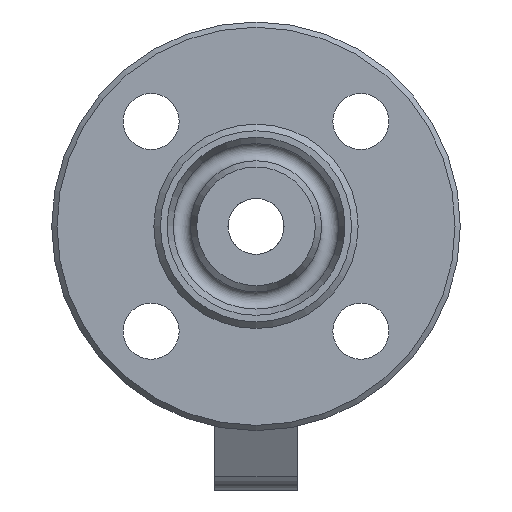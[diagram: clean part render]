
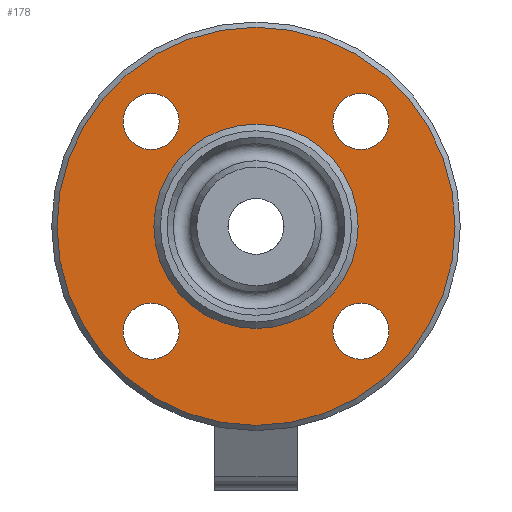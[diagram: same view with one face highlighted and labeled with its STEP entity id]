
A CAD part, left-side view. The second image highlights one B-rep face of the part: STEP entity #178.
In plain terms, the highlighted planar face has unit normal (-1, 0, 0).
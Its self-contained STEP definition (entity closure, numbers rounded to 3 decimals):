
#178=ADVANCED_FACE('',(#1409,#1411,#1413,#1415,#1417,#1419),#1421,.T.);
#1409=FACE_BOUND('',#1410,.T.);
#1410=EDGE_LOOP('',(#2310));
#1411=FACE_BOUND('',#1412,.T.);
#1412=EDGE_LOOP('',(#2311));
#1413=FACE_BOUND('',#1414,.T.);
#1414=EDGE_LOOP('',(#2312));
#1415=FACE_BOUND('',#1416,.T.);
#1416=EDGE_LOOP('',(#2313));
#1417=FACE_BOUND('',#1418,.T.);
#1418=EDGE_LOOP('',(#2314));
#1419=FACE_OUTER_BOUND('',#1420,.T.);
#1420=EDGE_LOOP('',(#2315));
#1421=PLANE('',#1422);
#1422=AXIS2_PLACEMENT_3D('',#1423,#1424,#1425);
#1423=CARTESIAN_POINT('',(-57.,0.,0.));
#1424=DIRECTION('',(-1.,0.,0.));
#1425=DIRECTION('',(0.,1.,0.));
#2310=ORIENTED_EDGE('',*,*,#3207,.T.);
#2311=ORIENTED_EDGE('',*,*,#3210,.T.);
#2312=ORIENTED_EDGE('',*,*,#3212,.T.);
#2313=ORIENTED_EDGE('',*,*,#3214,.T.);
#2314=ORIENTED_EDGE('',*,*,#3256,.T.);
#2315=ORIENTED_EDGE('',*,*,#3257,.F.);
#3207=EDGE_CURVE('',#3583,#3583,#3584,.F.);
#3210=EDGE_CURVE('',#3586,#3586,#3588,.F.);
#3212=EDGE_CURVE('',#3589,#3589,#3591,.F.);
#3214=EDGE_CURVE('',#3592,#3592,#3594,.F.);
#3256=EDGE_CURVE('',#3665,#3665,#3666,.T.);
#3257=EDGE_CURVE('',#3667,#3667,#3668,.T.);
#3583=VERTEX_POINT('',#4764);
#3584=CIRCLE('',#4765,8.5);
#3586=VERTEX_POINT('',#4772);
#3588=CIRCLE('',#4776,8.5);
#3589=VERTEX_POINT('',#4780);
#3591=CIRCLE('',#4784,8.5);
#3592=VERTEX_POINT('',#4788);
#3594=CIRCLE('',#4792,8.5);
#3665=VERTEX_POINT('',#4962);
#3666=CIRCLE('',#4963,31.);
#3667=VERTEX_POINT('',#4967);
#3668=CIRCLE('',#4968,60.4);
#4764=CARTESIAN_POINT('',(-57.,-31.82,-40.32));
#4765=AXIS2_PLACEMENT_3D('',#4766,#4767,#4768);
#4766=CARTESIAN_POINT('',(-57.,-31.82,-31.82));
#4767=DIRECTION('',(-1.,0.,0.));
#4768=DIRECTION('',(0.,0.,-1.));
#4772=CARTESIAN_POINT('',(-57.,-40.32,31.82));
#4776=AXIS2_PLACEMENT_3D('',#4777,#4778,#4779);
#4777=CARTESIAN_POINT('',(-57.,-31.82,31.82));
#4778=DIRECTION('',(-1.,0.,0.));
#4779=DIRECTION('',(0.,-1.,0.));
#4780=CARTESIAN_POINT('',(-57.,31.82,40.32));
#4784=AXIS2_PLACEMENT_3D('',#4785,#4786,#4787);
#4785=CARTESIAN_POINT('',(-57.,31.82,31.82));
#4786=DIRECTION('',(-1.,0.,0.));
#4787=DIRECTION('',(0.,0.,1.));
#4788=CARTESIAN_POINT('',(-57.,40.32,-31.82));
#4792=AXIS2_PLACEMENT_3D('',#4793,#4794,#4795);
#4793=CARTESIAN_POINT('',(-57.,31.82,-31.82));
#4794=DIRECTION('',(-1.,0.,0.));
#4795=DIRECTION('',(0.,1.,0.));
#4962=CARTESIAN_POINT('',(-57.,31.,0.));
#4963=AXIS2_PLACEMENT_3D('',#4964,#4965,#4966);
#4964=CARTESIAN_POINT('',(-57.,0.,0.));
#4965=DIRECTION('',(1.,0.,0.));
#4966=DIRECTION('',(0.,1.,0.));
#4967=CARTESIAN_POINT('',(-57.,60.4,0.));
#4968=AXIS2_PLACEMENT_3D('',#4969,#4970,#4971);
#4969=CARTESIAN_POINT('',(-57.,0.,0.));
#4970=DIRECTION('',(1.,0.,0.));
#4971=DIRECTION('',(0.,1.,0.));
